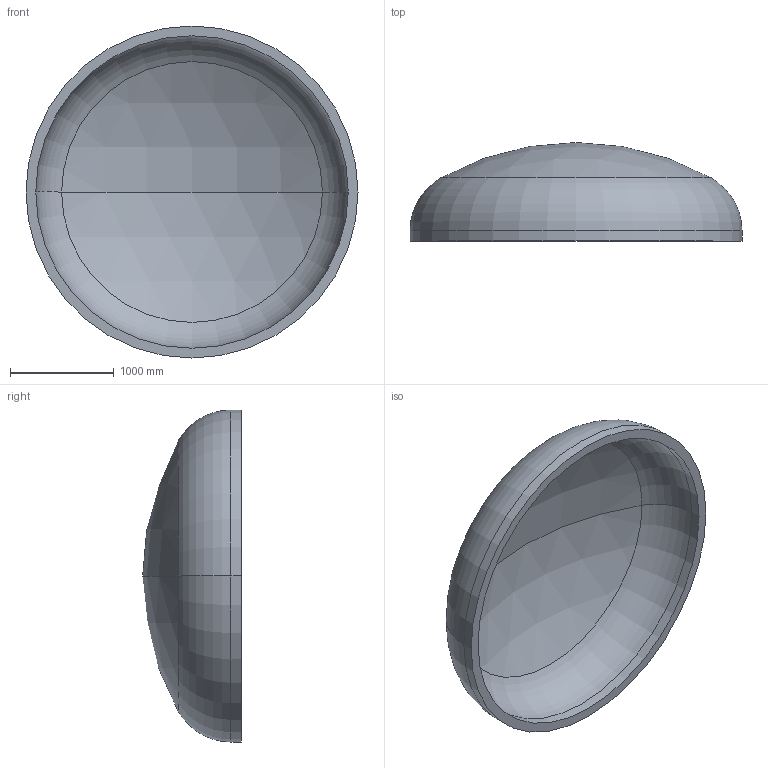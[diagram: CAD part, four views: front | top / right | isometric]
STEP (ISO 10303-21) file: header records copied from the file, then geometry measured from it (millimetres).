
FILE_DESCRIPTION (( 'STEP AP203' ), '1' );
FILE_NAME ('DIN 28013 Korbbogenform_-_Boden DIN 28013 - 3200 x 100 - I - s=94.step', '2016-07-01T18:56:29', ( '' ), ( '' ), 'SwSTEP 2.0', 'SolidWorks 2013', '' );
FILE_SCHEMA (( 'CONFIG_CONTROL_DESIGN' ));
Length unit declared in the file: millimetre
Products named in the file (1): DIN 28013 Korbbogenform_-_Boden DIN 28013 - 3200 x 100 - I - s=94
Bounding box: 3200 x 950.49 x 3200 mm (x, y, z)
Volume: 1098174473.6 mm3; surface area: 24301144.6 mm2
Topology: 1 solids, 1 shells, 13 faces, 24 edges, 14 vertices
Faces by surface type: torus 4, cylinder 4, sphere 4, plane 1
Entity records: 407 total; most frequent: DIRECTION 72, CARTESIAN_POINT 52, ORIENTED_EDGE 48, AXIS2_PLACEMENT_3D 34, EDGE_CURVE 24, CIRCLE 20, EDGE_LOOP 14, VERTEX_POINT 14
